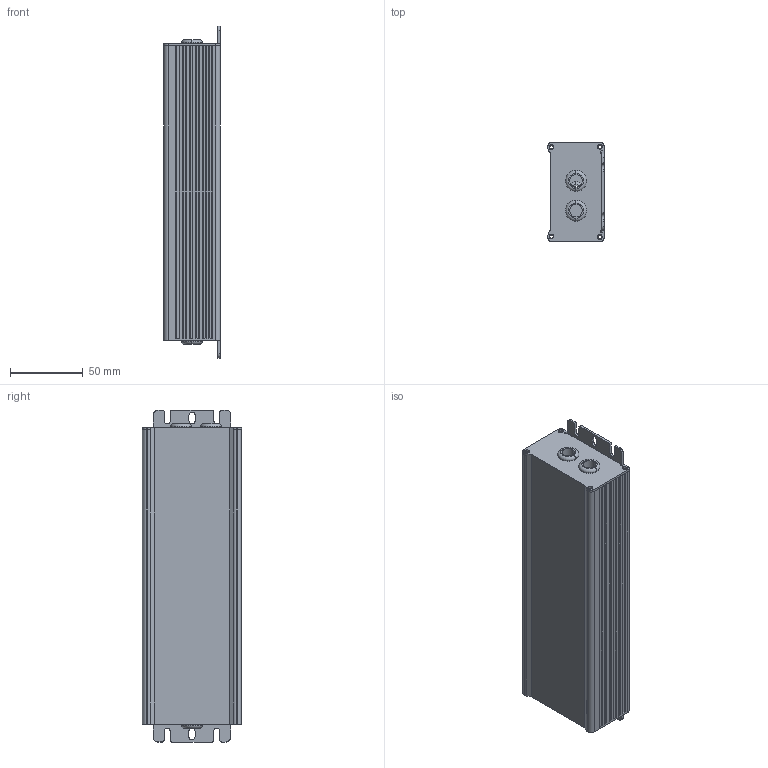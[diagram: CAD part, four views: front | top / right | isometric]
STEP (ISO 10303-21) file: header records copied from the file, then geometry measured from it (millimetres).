
FILE_DESCRIPTION(('Creo Elements/Direct Modeling STEP Export'),'2;1');
FILE_NAME('HLG-185-C-BTYPE.stp','2016-11-04T13:24:53',(''),(''),'PTC Creo Elements/Direct Modeling STEP processor for AP214 (Solid Model)','PTC Creo Elements/Direct Modeling 19.0 09-May-2014 (C) Parametric Technology GmbH','');
FILE_SCHEMA(('AUTOMOTIVE_DESIGN { 1 0 10303 214 1 1 1 1 }'));
Length unit declared in the file: millimetre
Products named in the file (4): CASE_PRT.PRT.1; HLG-240-A_1_ASM.ASM; HLG-240-A_STP.ASM; HLG-185-C.stp
Assembly tree (3 placements, depth 4):
  HLG-185-C.stp
    HLG-240-A_STP.ASM
      HLG-240-A_1_ASM.ASM
        CASE_PRT.PRT.1
Bounding box: 38.74 x 68.05 x 228 mm (x, y, z)
Volume: 96372.3 mm3; surface area: 104088.4 mm2
Topology: 1 solids, 1 shells, 241 faces, 706 edges, 459 vertices
Faces by surface type: plane 146, cylinder 83, torus 12
Entity records: 9855 total; most frequent: ORIENTED_EDGE 1412, CARTESIAN_POINT 1398, DIRECTION 1304, EDGE_CURVE 706, VECTOR 486, LINE 486, VERTEX_POINT 459, AXIS2_PLACEMENT_3D 409
